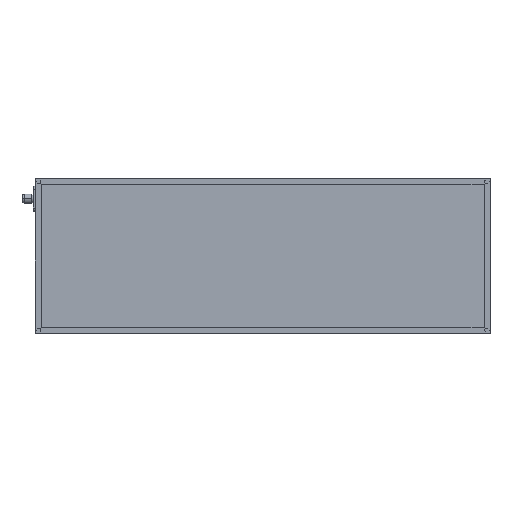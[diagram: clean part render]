
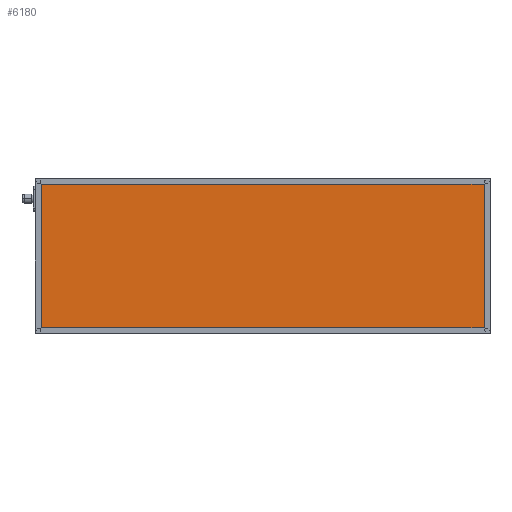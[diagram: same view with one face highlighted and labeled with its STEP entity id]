
A CAD part, top view. The second image highlights one B-rep face of the part: STEP entity #6180.
In plain terms, the highlighted planar face has unit normal (0, 0, 1).
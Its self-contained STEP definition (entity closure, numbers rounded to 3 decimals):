
#775 = VECTOR ( 'NONE', #1971, 1000. ) ;
#849 = CARTESIAN_POINT ( 'NONE',  ( 596., 0., 41.85 ) ) ;
#1096 = LINE ( 'NONE', #5017, #6936 ) ;
#1208 = CARTESIAN_POINT ( 'NONE',  ( 0., 0., 41.85 ) ) ;
#1575 = ORIENTED_EDGE ( 'NONE', *, *, #11399, .T. ) ;
#1587 = EDGE_CURVE ( 'NONE', #6891, #6980, #12660, .T. ) ;
#1971 = DIRECTION ( 'NONE',  ( 0., 1., 0. ) ) ;
#2025 = DIRECTION ( 'NONE',  ( -1., 0., 0. ) ) ;
#2393 = DIRECTION ( 'NONE',  ( 0., -1., 0. ) ) ;
#2863 = DIRECTION ( 'NONE',  ( -1., 0., 0. ) ) ;
#3318 = CARTESIAN_POINT ( 'NONE',  ( 596., 4., 41.85 ) ) ;
#3845 = ORIENTED_EDGE ( 'NONE', *, *, #14879, .T. ) ;
#4321 = CARTESIAN_POINT ( 'NONE',  ( 4., 4., 41.85 ) ) ;
#5017 = CARTESIAN_POINT ( 'NONE',  ( 0., 4., 41.85 ) ) ;
#5143 = EDGE_CURVE ( 'NONE', #5264, #13211, #1096, .T. ) ;
#5264 = VERTEX_POINT ( 'NONE', #4321 ) ;
#5877 = CARTESIAN_POINT ( 'NONE',  ( 0., 196., 41.85 ) ) ;
#6180 = ADVANCED_FACE ( 'NONE', ( #7911 ), #10786, .F. ) ;
#6470 = CARTESIAN_POINT ( 'NONE',  ( 596., 196., 41.85 ) ) ;
#6891 = VERTEX_POINT ( 'NONE', #6470 ) ;
#6936 = VECTOR ( 'NONE', #11730, 1000. ) ;
#6980 = VERTEX_POINT ( 'NONE', #9422 ) ;
#7295 = ORIENTED_EDGE ( 'NONE', *, *, #5143, .T. ) ;
#7911 = FACE_OUTER_BOUND ( 'NONE', #16199, .T. ) ;
#8265 = VECTOR ( 'NONE', #2393, 1000. ) ;
#9422 = CARTESIAN_POINT ( 'NONE',  ( 4., 196., 41.85 ) ) ;
#10291 = AXIS2_PLACEMENT_3D ( 'NONE', #1208, #10613, #2863 ) ;
#10613 = DIRECTION ( 'NONE',  ( 0., 0., -1. ) ) ;
#10786 = PLANE ( 'NONE',  #10291 ) ;
#11399 = EDGE_CURVE ( 'NONE', #6980, #5264, #14520, .T. ) ;
#11730 = DIRECTION ( 'NONE',  ( 1., 0., 0. ) ) ;
#12660 = LINE ( 'NONE', #5877, #15329 ) ;
#13211 = VERTEX_POINT ( 'NONE', #3318 ) ;
#13919 = LINE ( 'NONE', #849, #775 ) ;
#14147 = ORIENTED_EDGE ( 'NONE', *, *, #1587, .T. ) ;
#14167 = CARTESIAN_POINT ( 'NONE',  ( 4., 0., 41.85 ) ) ;
#14520 = LINE ( 'NONE', #14167, #8265 ) ;
#14879 = EDGE_CURVE ( 'NONE', #13211, #6891, #13919, .T. ) ;
#15329 = VECTOR ( 'NONE', #2025, 1000. ) ;
#16199 = EDGE_LOOP ( 'NONE', ( #3845, #14147, #1575, #7295 ) ) ;
